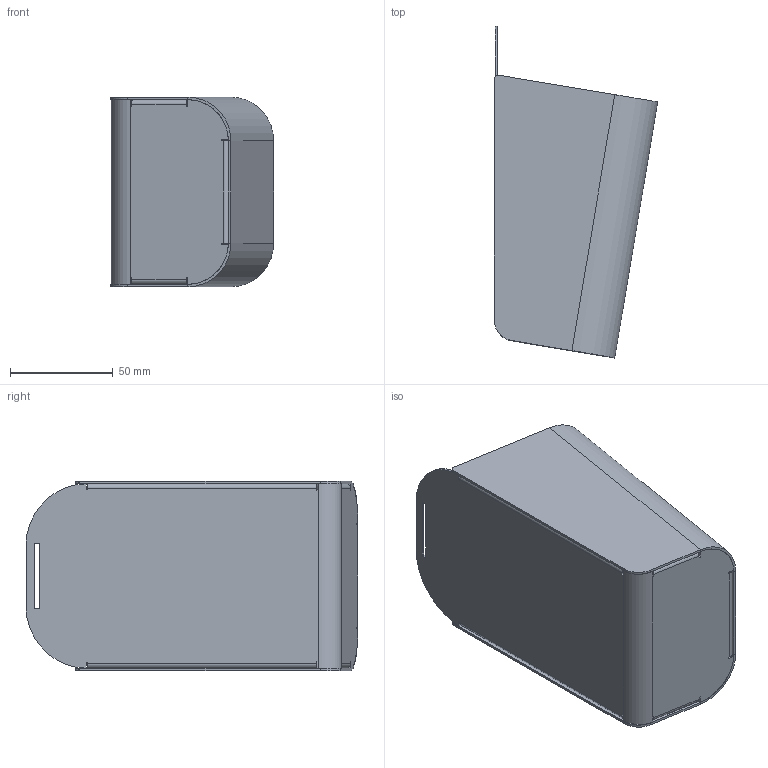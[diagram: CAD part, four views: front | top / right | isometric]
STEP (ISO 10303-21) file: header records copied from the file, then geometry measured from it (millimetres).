
FILE_DESCRIPTION (( 'STEP AP214' ), '1' );
FILE_NAME ('NIK_102.STEP', '2021-11-29T08:43:12', ( '' ), ( '' ), 'SwSTEP 2.0', 'SolidWorks 2019', '' );
FILE_SCHEMA (( 'AUTOMOTIVE_DESIGN' ));
Length unit declared in the file: millimetre
Products named in the file (3): NIK_102_01; NIK_102; NIK_102_02
Assembly tree (2 placements, depth 2):
  NIK_102
    NIK_102_01
    NIK_102_02
Bounding box: 79.57 x 161.79 x 92.4 mm (x, y, z)
Volume: 55678.4 mm3; surface area: 94483.8 mm2
Topology: 2 solids, 2 shells, 120 faces, 292 edges, 176 vertices
Faces by surface type: plane 94, cylinder 26
Entity records: 3538 total; most frequent: DIRECTION 598, CARTESIAN_POINT 593, ORIENTED_EDGE 584, EDGE_CURVE 292, VECTOR 236, LINE 236, AXIS2_PLACEMENT_3D 181, VERTEX_POINT 176
